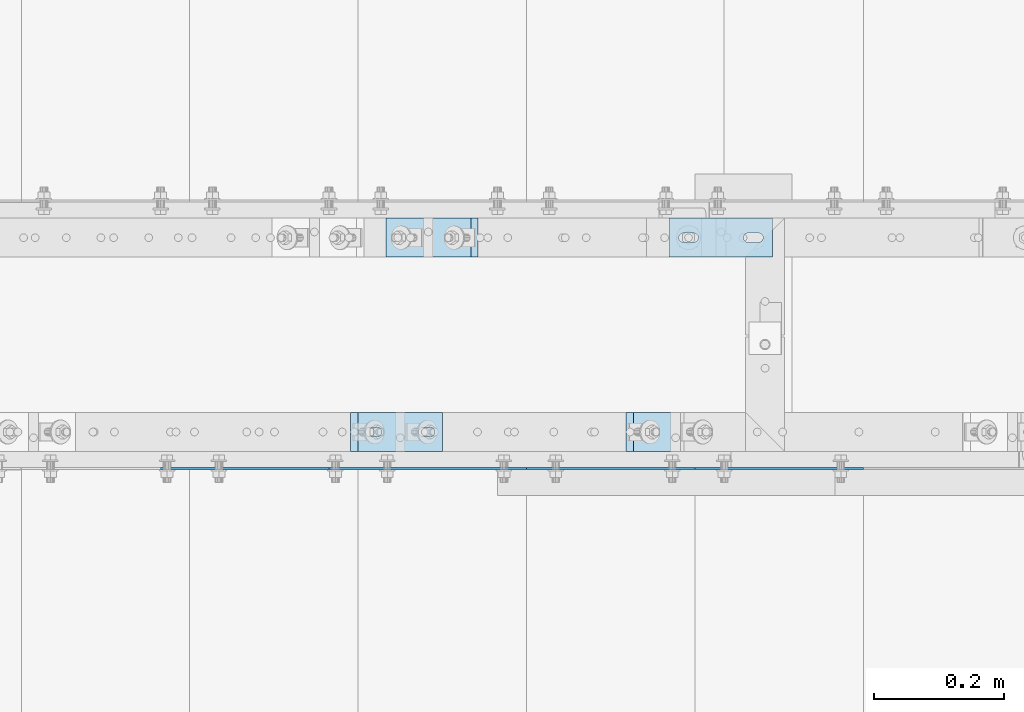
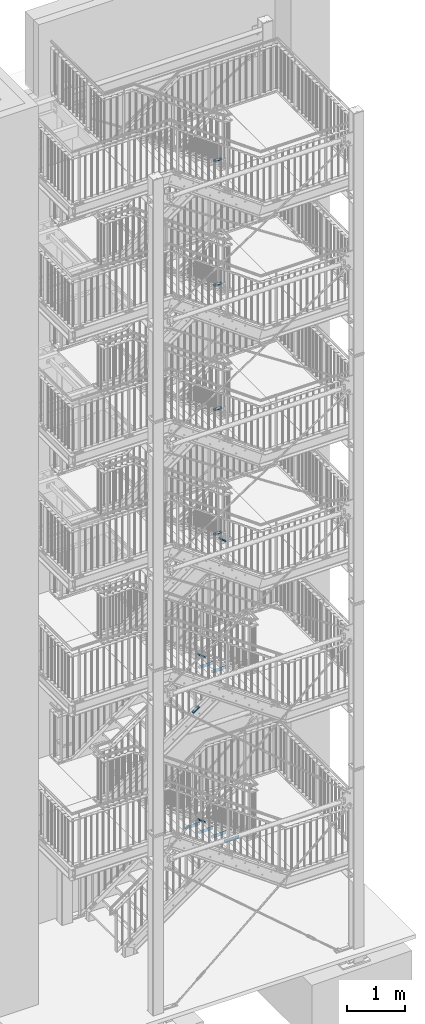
# One storey, part 178 of 831: 14 plates, 28 openings.
"""IFC2X3 building model written with IfcOpenShell, lengths in millimetres."""

from ifc_helpers import new_model, entity, si_unit, converted_unit, point, frame, frame_2d, origin, origin_with_axes, origin_2d_with_axis, place, context, project, spatial, polyline, circle_curve, line_curve, trimmed, segment, composite_curve, circle, outline, extrude, material, layer, layer_set, element, save


model = new_model("IFC2X3")

# Units and contexts
model_context = context("Model", 3, precision=1e-09, world=origin_with_axes())
ifc_project = project(units=[si_unit("LENGTHUNIT", "METRE", prefix="MILLI"), si_unit("AREAUNIT", "SQUARE_METRE"), si_unit("VOLUMEUNIT", "CUBIC_METRE"), converted_unit("PLANEANGLEUNIT", "DEGREE", entity("IfcPlaneAngleMeasure", 0.01745329), si_unit("PLANEANGLEUNIT", "RADIAN"), dimensions=[0, 0, 0, 0, 0, 0, 0])], contexts=[model_context])

# Site, building, storey
site_placement = place(None, origin_with_axes())
site = spatial("IfcSite", under=ifc_project, at=site_placement, Name="Site", CompositionType="ELEMENT")
building_placement = place(site_placement, origin_with_axes())
building = spatial("IfcBuilding", under=site, at=building_placement, Name="Struktur 1", CompositionType="ELEMENT")
storey_placement = place(building_placement, origin_with_axes())
storey = spatial("IfcBuildingStorey", under=building, at=storey_placement, Name="Default Storey", CompositionType="ELEMENT", Elevation=0.0)

# Plate, openings
ifc_material = material(Name="S235JR")
ifc_layer_1 = layer(ifc_material, 3.0)
ifc_layer_set_1 = layer_set([ifc_layer_1], Name="S235JR")
plate_1_placement = place(None, frame((6796.713402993, 5733.736971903, 2776.3684208), z_axis=(0.0, 1.0, 0.0), x_axis=(0.0, 0.0, -1.0)))
plate_1 = element("IfcPlate", 1, at=plate_1_placement, inside=storey, material=ifc_layer_set_1, Name="Grate_Step#17", ObjectType="Grate_Step#17", context=model_context, shape_type="SweptSolid", body=[
    extrude(outline(polyline([(0.0, 0.0), (70.0, 0.0), (70.0, 275.0), (40.0, 305.0), (0.0, 305.0), (0.0, 0.0)])), origin_with_axes(), (0.0, 0.0, 1.0), 3.0),
])
opening_1_placement = place(plate_1_placement, frame((55.0, 215.0, -0.5), z_axis=(0.0, 0.0, 1.0), x_axis=(0.0, 1.0, 0.0)))
element("IfcOpeningElement", 2, at=opening_1_placement, cuts=plate_1, ObjectType="Opening", context=model_context, shape_type="SweptSolid", body=[
    extrude(outline(composite_curve([segment(trimmed(line_curve((-9.5, -7.001), (1.0, 0.0), 19.0), [point((-9.5, -7.001))], [point((9.5, -7.001))], True, "CARTESIAN"), True, "CONTINUOUS"), segment(trimmed(circle_curve(frame_2d((9.5, 0.0), x_axis=(1.0, 0.0)), 7.001), [point((9.5, -7.001))], [point((9.5, 7.001))], True, "CARTESIAN"), True, "CONTINUOUS"), segment(trimmed(line_curve((9.5, 7.001), (-1.0, 0.0), 19.0), [point((9.5, 7.001))], [point((-9.5, 7.001))], True, "CARTESIAN"), True, "CONTINUOUS"), segment(trimmed(circle_curve(frame_2d((-9.5, 0.0), x_axis=(1.0, 0.0)), 7.001), [point((-9.5, 7.001))], [point((-9.5, -7.001))], True, "CARTESIAN"), True, "CONTINUOUS")], self_intersect=False)), origin(), (0.0, 0.0, 1.0), 4.0),
])
opening_2_placement = place(plate_1_placement, frame((55.0, 35.0, -0.5), z_axis=(0.0, 0.0, 1.0), x_axis=(0.0, 1.0, 0.0)))
element("IfcOpeningElement", 3, at=opening_2_placement, cuts=plate_1, ObjectType="Opening", context=model_context, shape_type="SweptSolid", body=[
    extrude(circle(Radius=7.001, at=origin_2d_with_axis()), origin(), (0.0, 0.0, 1.0), 4.0),
])

plate_2_placement = place(None, frame((7316.713402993, 5733.736971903, 2406.1578944), z_axis=(0.0, 1.0, 0.0), x_axis=(0.0, 0.0, -1.0)))
plate_2 = element("IfcPlate", 4, at=plate_2_placement, inside=storey, material=ifc_layer_set_1, Name="Grate_Step#3", ObjectType="Grate_Step#3", context=model_context, shape_type="SweptSolid", body=[
    extrude(outline(polyline([(0.0, 0.0), (70.0, 0.0), (70.0, 275.0), (40.0, 305.0), (0.0, 305.0), (0.0, 0.0)])), origin_with_axes(), (0.0, 0.0, 1.0), 3.0),
])
opening_3_placement = place(plate_2_placement, frame((55.0, 215.0, -0.5), z_axis=(0.0, 0.0, 1.0), x_axis=(0.0, 1.0, 0.0)))
element("IfcOpeningElement", 5, at=opening_3_placement, cuts=plate_2, ObjectType="Opening", context=model_context, shape_type="SweptSolid", body=[
    extrude(outline(composite_curve([segment(trimmed(line_curve((-9.5, -7.001), (1.0, 0.0), 19.0), [point((-9.5, -7.001))], [point((9.5, -7.001))], True, "CARTESIAN"), True, "CONTINUOUS"), segment(trimmed(circle_curve(frame_2d((9.5, 0.0), x_axis=(1.0, 0.0)), 7.001), [point((9.5, -7.001))], [point((9.5, 7.001))], True, "CARTESIAN"), True, "CONTINUOUS"), segment(trimmed(line_curve((9.5, 7.001), (-1.0, 0.0), 19.0), [point((9.5, 7.001))], [point((-9.5, 7.001))], True, "CARTESIAN"), True, "CONTINUOUS"), segment(trimmed(circle_curve(frame_2d((-9.5, 0.0), x_axis=(1.0, 0.0)), 7.001), [point((-9.5, 7.001))], [point((-9.5, -7.001))], True, "CARTESIAN"), True, "CONTINUOUS")], self_intersect=False)), origin(), (0.0, 0.0, 1.0), 4.0),
])
opening_4_placement = place(plate_2_placement, frame((55.0, 35.0, -0.5), z_axis=(0.0, 0.0, 1.0), x_axis=(0.0, 1.0, 0.0)))
element("IfcOpeningElement", 6, at=opening_4_placement, cuts=plate_2, ObjectType="Opening", context=model_context, shape_type="SweptSolid", body=[
    extrude(circle(Radius=7.001, at=origin_2d_with_axis()), origin(), (0.0, 0.0, 1.0), 4.0),
])

plate_3_placement = place(None, frame((7056.713402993, 5733.736971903, 6080.4736841), z_axis=(0.0, 1.0, 0.0), x_axis=(0.0, 0.0, -1.0)))
plate_3 = element("IfcPlate", 7, at=plate_3_placement, inside=storey, material=ifc_layer_set_1, Name="Grate_Step#10", ObjectType="Grate_Step#10", context=model_context, shape_type="SweptSolid", body=[
    extrude(outline(polyline([(0.0, 0.0), (70.0, 0.0), (70.0, 275.0), (40.0, 305.0), (0.0, 305.0), (0.0, 0.0)])), origin_with_axes(), (0.0, 0.0, 1.0), 3.0),
])
opening_5_placement = place(plate_3_placement, frame((55.0, 215.0, -0.5), z_axis=(0.0, 0.0, 1.0), x_axis=(0.0, 1.0, 0.0)))
element("IfcOpeningElement", 8, at=opening_5_placement, cuts=plate_3, ObjectType="Opening", context=model_context, shape_type="SweptSolid", body=[
    extrude(outline(composite_curve([segment(trimmed(line_curve((-9.5, -7.001), (1.0, 0.0), 19.0), [point((-9.5, -7.001))], [point((9.5, -7.001))], True, "CARTESIAN"), True, "CONTINUOUS"), segment(trimmed(circle_curve(frame_2d((9.5, 0.0), x_axis=(1.0, 0.0)), 7.001), [point((9.5, -7.001))], [point((9.5, 7.001))], True, "CARTESIAN"), True, "CONTINUOUS"), segment(trimmed(line_curve((9.5, 7.001), (-1.0, 0.0), 19.0), [point((9.5, 7.001))], [point((-9.5, 7.001))], True, "CARTESIAN"), True, "CONTINUOUS"), segment(trimmed(circle_curve(frame_2d((-9.5, 0.0), x_axis=(1.0, 0.0)), 7.001), [point((-9.5, 7.001))], [point((-9.5, -7.001))], True, "CARTESIAN"), True, "CONTINUOUS")], self_intersect=False)), origin(), (0.0, 0.0, 1.0), 4.0),
])
opening_6_placement = place(plate_3_placement, frame((55.0, 35.0, -0.5), z_axis=(0.0, 0.0, 1.0), x_axis=(0.0, 1.0, 0.0)))
element("IfcOpeningElement", 9, at=opening_6_placement, cuts=plate_3, ObjectType="Opening", context=model_context, shape_type="SweptSolid", body=[
    extrude(circle(Radius=7.001, at=origin_2d_with_axis()), origin(), (0.0, 0.0, 1.0), 4.0),
])

plate_4_placement = place(None, frame((7056.713402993, 5733.736971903, 2591.2631576), z_axis=(0.0, 1.0, 0.0), x_axis=(0.0, 0.0, -1.0)))
plate_4 = element("IfcPlate", 10, at=plate_4_placement, inside=storey, material=ifc_layer_set_1, Name="Grate_Step#10", ObjectType="Grate_Step#10", context=model_context, shape_type="SweptSolid", body=[
    extrude(outline(polyline([(0.0, 0.0), (70.0, 0.0), (70.0, 275.0), (40.0, 305.0), (0.0, 305.0), (0.0, 0.0)])), origin_with_axes(), (0.0, 0.0, 1.0), 3.0),
])
opening_7_placement = place(plate_4_placement, frame((55.0, 215.0, -0.5), z_axis=(0.0, 0.0, 1.0), x_axis=(0.0, 1.0, 0.0)))
element("IfcOpeningElement", 11, at=opening_7_placement, cuts=plate_4, ObjectType="Opening", context=model_context, shape_type="SweptSolid", body=[
    extrude(outline(composite_curve([segment(trimmed(line_curve((-9.5, -7.001), (1.0, 0.0), 19.0), [point((-9.5, -7.001))], [point((9.5, -7.001))], True, "CARTESIAN"), True, "CONTINUOUS"), segment(trimmed(circle_curve(frame_2d((9.5, 0.0), x_axis=(1.0, 0.0)), 7.001), [point((9.5, -7.001))], [point((9.5, 7.001))], True, "CARTESIAN"), True, "CONTINUOUS"), segment(trimmed(line_curve((9.5, 7.001), (-1.0, 0.0), 19.0), [point((9.5, 7.001))], [point((-9.5, 7.001))], True, "CARTESIAN"), True, "CONTINUOUS"), segment(trimmed(circle_curve(frame_2d((-9.5, 0.0), x_axis=(1.0, 0.0)), 7.001), [point((-9.5, 7.001))], [point((-9.5, -7.001))], True, "CARTESIAN"), True, "CONTINUOUS")], self_intersect=False)), origin(), (0.0, 0.0, 1.0), 4.0),
])
opening_8_placement = place(plate_4_placement, frame((55.0, 35.0, -0.5), z_axis=(0.0, 0.0, 1.0), x_axis=(0.0, 1.0, 0.0)))
element("IfcOpeningElement", 12, at=opening_8_placement, cuts=plate_4, ObjectType="Opening", context=model_context, shape_type="SweptSolid", body=[
    extrude(circle(Radius=7.001, at=origin_2d_with_axis()), origin(), (0.0, 0.0, 1.0), 4.0),
])

plate_5_placement = place(None, frame((6796.713402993, 5733.736971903, 6263.2631578), z_axis=(0.0, 1.0, 0.0), x_axis=(0.0, 0.0, -1.0)))
plate_5 = element("IfcPlate", 13, at=plate_5_placement, inside=storey, material=ifc_layer_set_1, Name="Grate_Step#17", ObjectType="Grate_Step#17", context=model_context, shape_type="SweptSolid", body=[
    extrude(outline(polyline([(0.0, 0.0), (70.0, 0.0), (70.0, 275.0), (40.0, 305.0), (0.0, 305.0), (0.0, 0.0)])), origin_with_axes(), (0.0, 0.0, 1.0), 3.0),
])
opening_9_placement = place(plate_5_placement, frame((55.0, 35.0, -0.5), z_axis=(0.0, 0.0, 1.0), x_axis=(0.0, 1.0, 0.0)))
element("IfcOpeningElement", 14, at=opening_9_placement, cuts=plate_5, ObjectType="Opening", context=model_context, shape_type="SweptSolid", body=[
    extrude(circle(Radius=7.001, at=origin_2d_with_axis()), origin(), (0.0, 0.0, 1.0), 4.0),
])
opening_10_placement = place(plate_5_placement, frame((55.0, 215.0, -0.5), z_axis=(0.0, 0.0, 1.0), x_axis=(0.0, 1.0, 0.0)))
element("IfcOpeningElement", 15, at=opening_10_placement, cuts=plate_5, ObjectType="Opening", context=model_context, shape_type="SweptSolid", body=[
    extrude(outline(composite_curve([segment(trimmed(line_curve((-9.5, -7.001), (1.0, 0.0), 19.0), [point((-9.5, -7.001))], [point((9.5, -7.001))], True, "CARTESIAN"), True, "CONTINUOUS"), segment(trimmed(circle_curve(frame_2d((9.5, 0.0), x_axis=(1.0, 0.0)), 7.001), [point((9.5, -7.001))], [point((9.5, 7.001))], True, "CARTESIAN"), True, "CONTINUOUS"), segment(trimmed(line_curve((9.5, 7.001), (-1.0, 0.0), 19.0), [point((9.5, 7.001))], [point((-9.5, 7.001))], True, "CARTESIAN"), True, "CONTINUOUS"), segment(trimmed(circle_curve(frame_2d((-9.5, 0.0), x_axis=(1.0, 0.0)), 7.001), [point((-9.5, 7.001))], [point((-9.5, -7.001))], True, "CARTESIAN"), True, "CONTINUOUS")], self_intersect=False)), origin(), (0.0, 0.0, 1.0), 4.0),
])

plate_6_placement = place(None, frame((6536.713402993, 5733.736971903, 2961.473684), z_axis=(0.0, 1.0, 0.0), x_axis=(0.0, 0.0, -1.0)))
plate_6 = element("IfcPlate", 16, at=plate_6_placement, inside=storey, material=ifc_layer_set_1, Name="Grate_Step#24", ObjectType="Grate_Step#24", context=model_context, shape_type="SweptSolid", body=[
    extrude(outline(polyline([(0.0, 0.0), (70.0, 0.0), (70.0, 275.0), (40.0, 305.0), (0.0, 305.0), (0.0, 0.0)])), origin_with_axes(), (0.0, 0.0, 1.0), 3.0),
])
opening_11_placement = place(plate_6_placement, frame((55.0, 215.0, -0.5), z_axis=(0.0, 0.0, 1.0), x_axis=(0.0, 1.0, 0.0)))
element("IfcOpeningElement", 17, at=opening_11_placement, cuts=plate_6, ObjectType="Opening", context=model_context, shape_type="SweptSolid", body=[
    extrude(outline(composite_curve([segment(trimmed(line_curve((-9.5, -7.001), (1.0, 0.0), 19.0), [point((-9.5, -7.001))], [point((9.5, -7.001))], True, "CARTESIAN"), True, "CONTINUOUS"), segment(trimmed(circle_curve(frame_2d((9.5, 0.0), x_axis=(1.0, 0.0)), 7.001), [point((9.5, -7.001))], [point((9.5, 7.001))], True, "CARTESIAN"), True, "CONTINUOUS"), segment(trimmed(line_curve((9.5, 7.001), (-1.0, 0.0), 19.0), [point((9.5, 7.001))], [point((-9.5, 7.001))], True, "CARTESIAN"), True, "CONTINUOUS"), segment(trimmed(circle_curve(frame_2d((-9.5, 0.0), x_axis=(1.0, 0.0)), 7.001), [point((-9.5, 7.001))], [point((-9.5, -7.001))], True, "CARTESIAN"), True, "CONTINUOUS")], self_intersect=False)), origin(), (0.0, 0.0, 1.0), 4.0),
])
opening_12_placement = place(plate_6_placement, frame((55.0, 35.0, -0.5), z_axis=(0.0, 0.0, 1.0), x_axis=(0.0, 1.0, 0.0)))
element("IfcOpeningElement", 18, at=opening_12_placement, cuts=plate_6, ObjectType="Opening", context=model_context, shape_type="SweptSolid", body=[
    extrude(circle(Radius=7.001, at=origin_2d_with_axis()), origin(), (0.0, 0.0, 1.0), 4.0),
])

ifc_layer_2 = layer(ifc_material, 20.0)
ifc_layer_set_2 = layer_set([ifc_layer_2], Name="S235JR")
plate_7_placement = place(None, frame((6722.064782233, 6121.736971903, 5114.045615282), z_axis=(-0.575128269, 0.0, 0.818063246), x_axis=(-0.818063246, 0.0, -0.575128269)))
plate_7 = element("IfcPlate", 19, at=plate_7_placement, inside=storey, material=ifc_layer_set_2, Name="Plate#502", ObjectType="Plate#502", context=model_context, shape_type="SweptSolid", body=[
    extrude(outline(polyline([(0.0, 0.0), (160.0, 0.0), (160.0, 60.0), (0.0, 60.0), (0.0, 0.0)])), origin_with_axes(), (0.0, 0.0, 1.0), 20.0),
])
opening_13_placement = place(plate_7_placement, frame((38.0, 37.001, 20.5), z_axis=(0.0, 0.0, 1.0), x_axis=(-1.0, 0.0, 0.0)))
element("IfcOpeningElement", 20, at=opening_13_placement, cuts=plate_7, ObjectType="Opening", context=model_context, shape_type="SweptSolid", body=[
    extrude(outline(composite_curve([segment(trimmed(line_curve((0.0, 0.0), (1.0, 0.0), 16.0), [point((0.0, 0.0))], [point((16.0, 0.0))], True, "CARTESIAN"), True, "CONTINUOUS"), segment(trimmed(circle_curve(frame_2d((16.0, 7.001), x_axis=(1.0, 0.0)), 7.001), [point((16.0, 0.0))], [point((16.0, 14.002))], True, "CARTESIAN"), True, "CONTINUOUS"), segment(trimmed(line_curve((16.0, 14.002), (-1.0, 0.0), 16.0), [point((16.0, 14.002))], [point((0.0, 14.002))], True, "CARTESIAN"), True, "CONTINUOUS"), segment(trimmed(circle_curve(frame_2d((0.0, 7.001), x_axis=(1.0, 0.0)), 7.001), [point((0.0, 14.002))], [point((0.0, 0.0))], True, "CARTESIAN"), True, "CONTINUOUS")], self_intersect=False)), origin(), (0.0, 0.0, -1.0), 21.0),
])
opening_14_placement = place(plate_7_placement, frame((138.0, 37.001, 20.5), z_axis=(0.0, 0.0, 1.0), x_axis=(-1.0, 0.0, 0.0)))
element("IfcOpeningElement", 21, at=opening_14_placement, cuts=plate_7, ObjectType="Opening", context=model_context, shape_type="SweptSolid", body=[
    extrude(outline(composite_curve([segment(trimmed(line_curve((0.0, 0.0), (1.0, 0.0), 16.0), [point((0.0, 0.0))], [point((16.0, 0.0))], True, "CARTESIAN"), True, "CONTINUOUS"), segment(trimmed(circle_curve(frame_2d((16.0, 7.001), x_axis=(1.0, 0.0)), 7.001), [point((16.0, 0.0))], [point((16.0, 14.002))], True, "CARTESIAN"), True, "CONTINUOUS"), segment(trimmed(line_curve((16.0, 14.002), (-1.0, 0.0), 16.0), [point((16.0, 14.002))], [point((0.0, 14.002))], True, "CARTESIAN"), True, "CONTINUOUS"), segment(trimmed(circle_curve(frame_2d((0.0, 7.001), x_axis=(1.0, 0.0)), 7.001), [point((0.0, 14.002))], [point((0.0, 0.0))], True, "CARTESIAN"), True, "CONTINUOUS")], self_intersect=False)), origin(), (0.0, 0.0, -1.0), 21.0),
])

plate_8_placement = place(None, frame((7176.714402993, 6121.736971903, 8636.0), z_axis=(0.0, 0.0, 1.0), x_axis=(-1.0, 0.0, 0.0)))
plate_8 = element("IfcPlate", 22, at=plate_8_placement, inside=storey, material=ifc_layer_set_2, Name="Plate#502", ObjectType="Plate#502", context=model_context, shape_type="SweptSolid", body=[
    extrude(outline(polyline([(0.0, 0.0), (160.0, 0.0), (160.0, 60.0), (0.0, 60.0), (0.0, 0.0)])), origin_with_axes(), (0.0, 0.0, 1.0), 20.0),
])
opening_15_placement = place(plate_8_placement, frame((38.0, 37.001, 20.5), z_axis=(0.0, 0.0, 1.0), x_axis=(-1.0, 0.0, 0.0)))
element("IfcOpeningElement", 23, at=opening_15_placement, cuts=plate_8, ObjectType="Opening", context=model_context, shape_type="SweptSolid", body=[
    extrude(outline(composite_curve([segment(trimmed(line_curve((0.0, 0.0), (1.0, 0.0), 16.0), [point((0.0, 0.0))], [point((16.0, 0.0))], True, "CARTESIAN"), True, "CONTINUOUS"), segment(trimmed(circle_curve(frame_2d((16.0, 7.001), x_axis=(1.0, 0.0)), 7.001), [point((16.0, 0.0))], [point((16.0, 14.002))], True, "CARTESIAN"), True, "CONTINUOUS"), segment(trimmed(line_curve((16.0, 14.002), (-1.0, 0.0), 16.0), [point((16.0, 14.002))], [point((0.0, 14.002))], True, "CARTESIAN"), True, "CONTINUOUS"), segment(trimmed(circle_curve(frame_2d((0.0, 7.001), x_axis=(1.0, 0.0)), 7.001), [point((0.0, 14.002))], [point((0.0, 0.0))], True, "CARTESIAN"), True, "CONTINUOUS")], self_intersect=False)), origin(), (0.0, 0.0, -1.0), 21.0),
])
opening_16_placement = place(plate_8_placement, frame((138.0, 37.001, 20.5), z_axis=(0.0, 0.0, 1.0), x_axis=(-1.0, 0.0, 0.0)))
element("IfcOpeningElement", 24, at=opening_16_placement, cuts=plate_8, ObjectType="Opening", context=model_context, shape_type="SweptSolid", body=[
    extrude(outline(composite_curve([segment(trimmed(line_curve((0.0, 0.0), (1.0, 0.0), 16.0), [point((0.0, 0.0))], [point((16.0, 0.0))], True, "CARTESIAN"), True, "CONTINUOUS"), segment(trimmed(circle_curve(frame_2d((16.0, 7.001), x_axis=(1.0, 0.0)), 7.001), [point((16.0, 0.0))], [point((16.0, 14.002))], True, "CARTESIAN"), True, "CONTINUOUS"), segment(trimmed(line_curve((16.0, 14.002), (-1.0, 0.0), 16.0), [point((16.0, 14.002))], [point((0.0, 14.002))], True, "CARTESIAN"), True, "CONTINUOUS"), segment(trimmed(circle_curve(frame_2d((0.0, 7.001), x_axis=(1.0, 0.0)), 7.001), [point((0.0, 14.002))], [point((0.0, 0.0))], True, "CARTESIAN"), True, "CONTINUOUS")], self_intersect=False)), origin(), (0.0, 0.0, -1.0), 21.0),
])

plate_9_placement = place(None, frame((7176.714402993, 6121.736971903, 11265.5000003), z_axis=(0.0, 0.0, 1.0), x_axis=(-1.0, 0.0, 0.0)))
plate_9 = element("IfcPlate", 25, at=plate_9_placement, inside=storey, material=ifc_layer_set_2, Name="Plate#502", ObjectType="Plate#502", context=model_context, shape_type="SweptSolid", body=[
    extrude(outline(polyline([(0.0, 0.0), (160.0, 0.0), (160.0, 60.0), (0.0, 60.0), (0.0, 0.0)])), origin_with_axes(), (0.0, 0.0, 1.0), 20.0),
])
opening_17_placement = place(plate_9_placement, frame((38.0, 37.001, 20.5), z_axis=(0.0, 0.0, 1.0), x_axis=(-1.0, 0.0, 0.0)))
element("IfcOpeningElement", 26, at=opening_17_placement, cuts=plate_9, ObjectType="Opening", context=model_context, shape_type="SweptSolid", body=[
    extrude(outline(composite_curve([segment(trimmed(line_curve((0.0, 0.0), (1.0, 0.0), 16.0), [point((0.0, 0.0))], [point((16.0, 0.0))], True, "CARTESIAN"), True, "CONTINUOUS"), segment(trimmed(circle_curve(frame_2d((16.0, 7.001), x_axis=(1.0, 0.0)), 7.001), [point((16.0, 0.0))], [point((16.0, 14.002))], True, "CARTESIAN"), True, "CONTINUOUS"), segment(trimmed(line_curve((16.0, 14.002), (-1.0, 0.0), 16.0), [point((16.0, 14.002))], [point((0.0, 14.002))], True, "CARTESIAN"), True, "CONTINUOUS"), segment(trimmed(circle_curve(frame_2d((0.0, 7.001), x_axis=(1.0, 0.0)), 7.001), [point((0.0, 14.002))], [point((0.0, 0.0))], True, "CARTESIAN"), True, "CONTINUOUS")], self_intersect=False)), origin(), (0.0, 0.0, -1.0), 21.0),
])
opening_18_placement = place(plate_9_placement, frame((138.0, 37.001, 20.5), z_axis=(0.0, 0.0, 1.0), x_axis=(-1.0, 0.0, 0.0)))
element("IfcOpeningElement", 27, at=opening_18_placement, cuts=plate_9, ObjectType="Opening", context=model_context, shape_type="SweptSolid", body=[
    extrude(outline(composite_curve([segment(trimmed(line_curve((0.0, 0.0), (1.0, 0.0), 16.0), [point((0.0, 0.0))], [point((16.0, 0.0))], True, "CARTESIAN"), True, "CONTINUOUS"), segment(trimmed(circle_curve(frame_2d((16.0, 7.001), x_axis=(1.0, 0.0)), 7.001), [point((16.0, 0.0))], [point((16.0, 14.002))], True, "CARTESIAN"), True, "CONTINUOUS"), segment(trimmed(line_curve((16.0, 14.002), (-1.0, 0.0), 16.0), [point((16.0, 14.002))], [point((0.0, 14.002))], True, "CARTESIAN"), True, "CONTINUOUS"), segment(trimmed(circle_curve(frame_2d((0.0, 7.001), x_axis=(1.0, 0.0)), 7.001), [point((0.0, 14.002))], [point((0.0, 0.0))], True, "CARTESIAN"), True, "CONTINUOUS")], self_intersect=False)), origin(), (0.0, 0.0, -1.0), 21.0),
])

plate_10_placement = place(None, frame((7176.714402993, 6121.736971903, 13896.5000001), z_axis=(0.0, 0.0, 1.0), x_axis=(-1.0, 0.0, 0.0)))
plate_10 = element("IfcPlate", 28, at=plate_10_placement, inside=storey, material=ifc_layer_set_2, Name="Plate#502", ObjectType="Plate#502", context=model_context, shape_type="SweptSolid", body=[
    extrude(outline(polyline([(0.0, 0.0), (160.0, 0.0), (160.0, 60.0), (0.0, 60.0), (0.0, 0.0)])), origin_with_axes(), (0.0, 0.0, 1.0), 20.0),
])
opening_19_placement = place(plate_10_placement, frame((38.0, 37.001, 20.5), z_axis=(0.0, 0.0, 1.0), x_axis=(-1.0, 0.0, 0.0)))
element("IfcOpeningElement", 29, at=opening_19_placement, cuts=plate_10, ObjectType="Opening", context=model_context, shape_type="SweptSolid", body=[
    extrude(outline(composite_curve([segment(trimmed(line_curve((0.0, 0.0), (1.0, 0.0), 16.0), [point((0.0, 0.0))], [point((16.0, 0.0))], True, "CARTESIAN"), True, "CONTINUOUS"), segment(trimmed(circle_curve(frame_2d((16.0, 7.001), x_axis=(1.0, 0.0)), 7.001), [point((16.0, 0.0))], [point((16.0, 14.002))], True, "CARTESIAN"), True, "CONTINUOUS"), segment(trimmed(line_curve((16.0, 14.002), (-1.0, 0.0), 16.0), [point((16.0, 14.002))], [point((0.0, 14.002))], True, "CARTESIAN"), True, "CONTINUOUS"), segment(trimmed(circle_curve(frame_2d((0.0, 7.001), x_axis=(1.0, 0.0)), 7.001), [point((0.0, 14.002))], [point((0.0, 0.0))], True, "CARTESIAN"), True, "CONTINUOUS")], self_intersect=False)), origin(), (0.0, 0.0, -1.0), 21.0),
])
opening_20_placement = place(plate_10_placement, frame((138.0, 37.001, 20.5), z_axis=(0.0, 0.0, 1.0), x_axis=(-1.0, 0.0, 0.0)))
element("IfcOpeningElement", 30, at=opening_20_placement, cuts=plate_10, ObjectType="Opening", context=model_context, shape_type="SweptSolid", body=[
    extrude(outline(composite_curve([segment(trimmed(line_curve((0.0, 0.0), (1.0, 0.0), 16.0), [point((0.0, 0.0))], [point((16.0, 0.0))], True, "CARTESIAN"), True, "CONTINUOUS"), segment(trimmed(circle_curve(frame_2d((16.0, 7.001), x_axis=(1.0, 0.0)), 7.001), [point((16.0, 0.0))], [point((16.0, 14.002))], True, "CARTESIAN"), True, "CONTINUOUS"), segment(trimmed(line_curve((16.0, 14.002), (-1.0, 0.0), 16.0), [point((16.0, 14.002))], [point((0.0, 14.002))], True, "CARTESIAN"), True, "CONTINUOUS"), segment(trimmed(circle_curve(frame_2d((0.0, 7.001), x_axis=(1.0, 0.0)), 7.001), [point((0.0, 14.002))], [point((0.0, 0.0))], True, "CARTESIAN"), True, "CONTINUOUS")], self_intersect=False)), origin(), (0.0, 0.0, -1.0), 21.0),
])

plate_11_placement = place(None, frame((7176.714402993, 6121.736971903, 16524.0000003), z_axis=(0.0, 0.0, 1.0), x_axis=(-1.0, 0.0, 0.0)))
plate_11 = element("IfcPlate", 31, at=plate_11_placement, inside=storey, material=ifc_layer_set_2, Name="Plate#502", ObjectType="Plate#502", context=model_context, shape_type="SweptSolid", body=[
    extrude(outline(polyline([(0.0, 0.0), (160.0, 0.0), (160.0, 60.0), (0.0, 60.0), (0.0, 0.0)])), origin_with_axes(), (0.0, 0.0, 1.0), 20.0),
])
opening_21_placement = place(plate_11_placement, frame((38.0, 37.001, 20.5), z_axis=(0.0, 0.0, 1.0), x_axis=(-1.0, 0.0, 0.0)))
element("IfcOpeningElement", 32, at=opening_21_placement, cuts=plate_11, ObjectType="Opening", context=model_context, shape_type="SweptSolid", body=[
    extrude(outline(composite_curve([segment(trimmed(line_curve((0.0, 0.0), (1.0, 0.0), 16.0), [point((0.0, 0.0))], [point((16.0, 0.0))], True, "CARTESIAN"), True, "CONTINUOUS"), segment(trimmed(circle_curve(frame_2d((16.0, 7.001), x_axis=(1.0, 0.0)), 7.001), [point((16.0, 0.0))], [point((16.0, 14.002))], True, "CARTESIAN"), True, "CONTINUOUS"), segment(trimmed(line_curve((16.0, 14.002), (-1.0, 0.0), 16.0), [point((16.0, 14.002))], [point((0.0, 14.002))], True, "CARTESIAN"), True, "CONTINUOUS"), segment(trimmed(circle_curve(frame_2d((0.0, 7.001), x_axis=(1.0, 0.0)), 7.001), [point((0.0, 14.002))], [point((0.0, 0.0))], True, "CARTESIAN"), True, "CONTINUOUS")], self_intersect=False)), origin(), (0.0, 0.0, -1.0), 21.0),
])
opening_22_placement = place(plate_11_placement, frame((138.0, 37.001, 20.5), z_axis=(0.0, 0.0, 1.0), x_axis=(-1.0, 0.0, 0.0)))
element("IfcOpeningElement", 33, at=opening_22_placement, cuts=plate_11, ObjectType="Opening", context=model_context, shape_type="SweptSolid", body=[
    extrude(outline(composite_curve([segment(trimmed(line_curve((0.0, 0.0), (1.0, 0.0), 16.0), [point((0.0, 0.0))], [point((16.0, 0.0))], True, "CARTESIAN"), True, "CONTINUOUS"), segment(trimmed(circle_curve(frame_2d((16.0, 7.001), x_axis=(1.0, 0.0)), 7.001), [point((16.0, 0.0))], [point((16.0, 14.002))], True, "CARTESIAN"), True, "CONTINUOUS"), segment(trimmed(line_curve((16.0, 14.002), (-1.0, 0.0), 16.0), [point((16.0, 14.002))], [point((0.0, 14.002))], True, "CARTESIAN"), True, "CONTINUOUS"), segment(trimmed(circle_curve(frame_2d((0.0, 7.001), x_axis=(1.0, 0.0)), 7.001), [point((0.0, 14.002))], [point((0.0, 0.0))], True, "CARTESIAN"), True, "CONTINUOUS")], self_intersect=False)), origin(), (0.0, 0.0, -1.0), 21.0),
])

plate_12_placement = place(None, frame((6525.039372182, 5761.736971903, 2969.784932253), z_axis=(0.579973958, 0.0, 0.814635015), x_axis=(0.814635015, 0.0, -0.579973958)))
plate_12 = element("IfcPlate", 34, at=plate_12_placement, inside=storey, material=ifc_layer_set_2, Name="Plate#501", ObjectType="Plate#501", context=model_context, shape_type="SweptSolid", body=[
    extrude(outline(polyline([(0.0, 0.0), (160.0, 0.0), (160.0, 60.0), (0.0, 60.0), (0.0, 0.0)])), origin_with_axes(), (0.0, 0.0, 1.0), 20.0),
])
opening_23_placement = place(plate_12_placement, frame((38.0, 37.001, 20.5), z_axis=(0.0, 0.0, 1.0), x_axis=(-1.0, 0.0, 0.0)))
element("IfcOpeningElement", 35, at=opening_23_placement, cuts=plate_12, ObjectType="Opening", context=model_context, shape_type="SweptSolid", body=[
    extrude(outline(composite_curve([segment(trimmed(line_curve((0.0, 0.0), (1.0, 0.0), 16.0), [point((0.0, 0.0))], [point((16.0, 0.0))], True, "CARTESIAN"), True, "CONTINUOUS"), segment(trimmed(circle_curve(frame_2d((16.0, 7.001), x_axis=(1.0, 0.0)), 7.001), [point((16.0, 0.0))], [point((16.0, 14.002))], True, "CARTESIAN"), True, "CONTINUOUS"), segment(trimmed(line_curve((16.0, 14.002), (-1.0, 0.0), 16.0), [point((16.0, 14.002))], [point((0.0, 14.002))], True, "CARTESIAN"), True, "CONTINUOUS"), segment(trimmed(circle_curve(frame_2d((0.0, 7.001), x_axis=(1.0, 0.0)), 7.001), [point((0.0, 14.002))], [point((0.0, 0.0))], True, "CARTESIAN"), True, "CONTINUOUS")], self_intersect=False)), origin(), (0.0, 0.0, -1.0), 21.0),
])
opening_24_placement = place(plate_12_placement, frame((138.0, 37.001, 20.5), z_axis=(0.0, 0.0, 1.0), x_axis=(-1.0, 0.0, 0.0)))
element("IfcOpeningElement", 36, at=opening_24_placement, cuts=plate_12, ObjectType="Opening", context=model_context, shape_type="SweptSolid", body=[
    extrude(outline(composite_curve([segment(trimmed(line_curve((0.0, 0.0), (1.0, 0.0), 16.0), [point((0.0, 0.0))], [point((16.0, 0.0))], True, "CARTESIAN"), True, "CONTINUOUS"), segment(trimmed(circle_curve(frame_2d((16.0, 7.001), x_axis=(1.0, 0.0)), 7.001), [point((16.0, 0.0))], [point((16.0, 14.002))], True, "CARTESIAN"), True, "CONTINUOUS"), segment(trimmed(line_curve((16.0, 14.002), (-1.0, 0.0), 16.0), [point((16.0, 14.002))], [point((0.0, 14.002))], True, "CARTESIAN"), True, "CONTINUOUS"), segment(trimmed(circle_curve(frame_2d((0.0, 7.001), x_axis=(1.0, 0.0)), 7.001), [point((0.0, 14.002))], [point((0.0, 0.0))], True, "CARTESIAN"), True, "CONTINUOUS")], self_intersect=False)), origin(), (0.0, 0.0, -1.0), 21.0),
])

plate_13_placement = place(None, frame((6524.696357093, 5761.736971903, 6454.501052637), z_axis=(0.57512827, 0.0, 0.818063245), x_axis=(0.818063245, 0.0, -0.57512827)))
plate_13 = element("IfcPlate", 37, at=plate_13_placement, inside=storey, material=ifc_layer_set_2, Name="Plate#501", ObjectType="Plate#501", context=model_context, shape_type="SweptSolid", body=[
    extrude(outline(polyline([(0.0, 0.0), (160.0, 0.0), (160.0, 60.0), (0.0, 60.0), (0.0, 0.0)])), origin_with_axes(), (0.0, 0.0, 1.0), 20.0),
])
opening_25_placement = place(plate_13_placement, frame((38.0, 37.001, 20.5), z_axis=(0.0, 0.0, 1.0), x_axis=(-1.0, 0.0, 0.0)))
element("IfcOpeningElement", 38, at=opening_25_placement, cuts=plate_13, ObjectType="Opening", context=model_context, shape_type="SweptSolid", body=[
    extrude(outline(composite_curve([segment(trimmed(line_curve((0.0, 0.0), (1.0, 0.0), 16.0), [point((0.0, 0.0))], [point((16.0, 0.0))], True, "CARTESIAN"), True, "CONTINUOUS"), segment(trimmed(circle_curve(frame_2d((16.0, 7.001), x_axis=(1.0, 0.0)), 7.001), [point((16.0, 0.0))], [point((16.0, 14.002))], True, "CARTESIAN"), True, "CONTINUOUS"), segment(trimmed(line_curve((16.0, 14.002), (-1.0, 0.0), 16.0), [point((16.0, 14.002))], [point((0.0, 14.002))], True, "CARTESIAN"), True, "CONTINUOUS"), segment(trimmed(circle_curve(frame_2d((0.0, 7.001), x_axis=(1.0, 0.0)), 7.001), [point((0.0, 14.002))], [point((0.0, 0.0))], True, "CARTESIAN"), True, "CONTINUOUS")], self_intersect=False)), origin(), (0.0, 0.0, -1.0), 21.0),
])
opening_26_placement = place(plate_13_placement, frame((138.0, 37.001, 20.5), z_axis=(0.0, 0.0, 1.0), x_axis=(-1.0, 0.0, 0.0)))
element("IfcOpeningElement", 39, at=opening_26_placement, cuts=plate_13, ObjectType="Opening", context=model_context, shape_type="SweptSolid", body=[
    extrude(outline(composite_curve([segment(trimmed(line_curve((0.0, 0.0), (1.0, 0.0), 16.0), [point((0.0, 0.0))], [point((16.0, 0.0))], True, "CARTESIAN"), True, "CONTINUOUS"), segment(trimmed(circle_curve(frame_2d((16.0, 7.001), x_axis=(1.0, 0.0)), 7.001), [point((16.0, 0.0))], [point((16.0, 14.002))], True, "CARTESIAN"), True, "CONTINUOUS"), segment(trimmed(line_curve((16.0, 14.002), (-1.0, 0.0), 16.0), [point((16.0, 14.002))], [point((0.0, 14.002))], True, "CARTESIAN"), True, "CONTINUOUS"), segment(trimmed(circle_curve(frame_2d((0.0, 7.001), x_axis=(1.0, 0.0)), 7.001), [point((0.0, 14.002))], [point((0.0, 0.0))], True, "CARTESIAN"), True, "CONTINUOUS")], self_intersect=False)), origin(), (0.0, 0.0, -1.0), 21.0),
])

plate_14_placement = place(None, frame((6950.1917864, 5761.736971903, 8753.023322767), z_axis=(0.585945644, 0.0, 0.810350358), x_axis=(0.810350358, 0.0, -0.585945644)))
plate_14 = element("IfcPlate", 40, at=plate_14_placement, inside=storey, material=ifc_layer_set_2, Name="Plate#500", ObjectType="Plate#500", context=model_context, shape_type="SweptSolid", body=[
    extrude(outline(polyline([(0.0, 0.0), (160.0, 0.0), (160.0, 60.0), (0.0, 60.0), (0.0, 0.0)])), origin_with_axes(), (0.0, 0.0, 1.0), 20.0),
])
opening_27_placement = place(plate_14_placement, frame((38.0, 37.001, 20.5), z_axis=(0.0, 0.0, 1.0), x_axis=(-1.0, 0.0, 0.0)))
element("IfcOpeningElement", 41, at=opening_27_placement, cuts=plate_14, ObjectType="Opening", context=model_context, shape_type="SweptSolid", body=[
    extrude(outline(composite_curve([segment(trimmed(line_curve((0.0, 0.0), (1.0, 0.0), 16.0), [point((0.0, 0.0))], [point((16.0, 0.0))], True, "CARTESIAN"), True, "CONTINUOUS"), segment(trimmed(circle_curve(frame_2d((16.0, 7.001), x_axis=(1.0, 0.0)), 7.001), [point((16.0, 0.0))], [point((16.0, 14.002))], True, "CARTESIAN"), True, "CONTINUOUS"), segment(trimmed(line_curve((16.0, 14.002), (-1.0, 0.0), 16.0), [point((16.0, 14.002))], [point((0.0, 14.002))], True, "CARTESIAN"), True, "CONTINUOUS"), segment(trimmed(circle_curve(frame_2d((0.0, 7.001), x_axis=(1.0, 0.0)), 7.001), [point((0.0, 14.002))], [point((0.0, 0.0))], True, "CARTESIAN"), True, "CONTINUOUS")], self_intersect=False)), origin(), (0.0, 0.0, -1.0), 21.0),
])
opening_28_placement = place(plate_14_placement, frame((138.0, 37.001, 20.5), z_axis=(0.0, 0.0, 1.0), x_axis=(-1.0, 0.0, 0.0)))
element("IfcOpeningElement", 42, at=opening_28_placement, cuts=plate_14, ObjectType="Opening", context=model_context, shape_type="SweptSolid", body=[
    extrude(outline(composite_curve([segment(trimmed(line_curve((0.0, 0.0), (1.0, 0.0), 16.0), [point((0.0, 0.0))], [point((16.0, 0.0))], True, "CARTESIAN"), True, "CONTINUOUS"), segment(trimmed(circle_curve(frame_2d((16.0, 7.001), x_axis=(1.0, 0.0)), 7.001), [point((16.0, 0.0))], [point((16.0, 14.002))], True, "CARTESIAN"), True, "CONTINUOUS"), segment(trimmed(line_curve((16.0, 14.002), (-1.0, 0.0), 16.0), [point((16.0, 14.002))], [point((0.0, 14.002))], True, "CARTESIAN"), True, "CONTINUOUS"), segment(trimmed(circle_curve(frame_2d((0.0, 7.001), x_axis=(1.0, 0.0)), 7.001), [point((0.0, 14.002))], [point((0.0, 0.0))], True, "CARTESIAN"), True, "CONTINUOUS")], self_intersect=False)), origin(), (0.0, 0.0, -1.0), 21.0),
])

save(model, "model.ifc")
